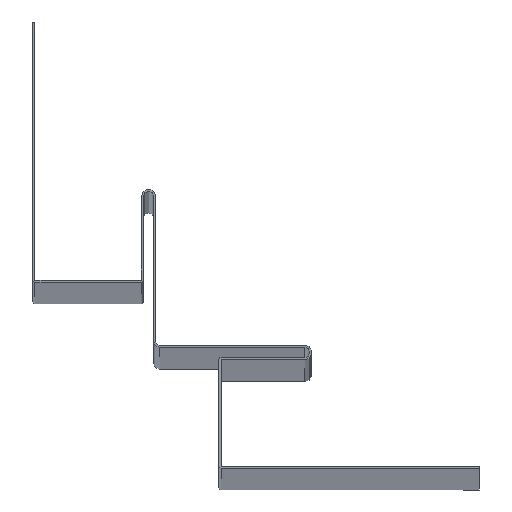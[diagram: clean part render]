
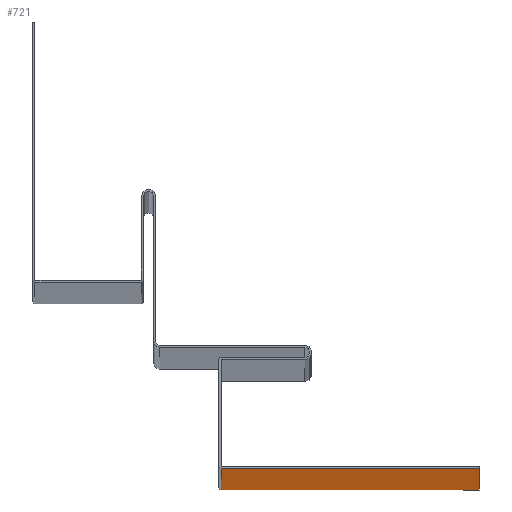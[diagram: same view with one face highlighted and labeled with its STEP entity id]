
A CAD part, top view. The second image highlights one B-rep face of the part: STEP entity #721.
In plain terms, the highlighted planar face has unit normal (0, -1, 0).
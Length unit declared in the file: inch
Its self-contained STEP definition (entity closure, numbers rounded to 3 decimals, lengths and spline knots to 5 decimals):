
#26 = ORIENTED_EDGE ( 'NONE', *, *, #580, .T. ) ;
#60 = ORIENTED_EDGE ( 'NONE', *, *, #151, .F. ) ;
#95 = VECTOR ( 'NONE', #689, 39.37008 ) ;
#99 = CARTESIAN_POINT ( 'NONE',  ( 3.11, -1.1625, 120. ) ) ;
#116 = VECTOR ( 'NONE', #370, 39.37008 ) ;
#151 = EDGE_CURVE ( 'NONE', #862, #930, #1087, .T. ) ;
#173 = EDGE_LOOP ( 'NONE', ( #984, #60, #771, #26 ) ) ;
#199 = LINE ( 'NONE', #850, #422 ) ;
#264 = VERTEX_POINT ( 'NONE', #1093 ) ;
#284 = LINE ( 'NONE', #819, #95 ) ;
#312 = FACE_OUTER_BOUND ( 'NONE', #173, .T. ) ;
#370 = DIRECTION ( 'NONE',  ( 0., 0., -1. ) ) ;
#400 = CARTESIAN_POINT ( 'NONE',  ( 0.63, -1.1625, 120. ) ) ;
#422 = VECTOR ( 'NONE', #706, 39.37008 ) ;
#469 = PLANE ( 'NONE',  #924 ) ;
#580 = EDGE_CURVE ( 'NONE', #968, #264, #199, .T. ) ;
#689 = DIRECTION ( 'NONE',  ( 1., 0., 0. ) ) ;
#693 = CARTESIAN_POINT ( 'NONE',  ( 3.11, -1.1625, 0. ) ) ;
#706 = DIRECTION ( 'NONE',  ( 0., 0., -1. ) ) ;
#721 = ADVANCED_FACE ( 'NONE', ( #312 ), #469, .F. ) ;
#723 = DIRECTION ( 'NONE',  ( 1., 0., 0. ) ) ;
#753 = DIRECTION ( 'NONE',  ( 0., 0., 1. ) ) ;
#761 = CARTESIAN_POINT ( 'NONE',  ( 3.11, -1.1625, 120. ) ) ;
#764 = CARTESIAN_POINT ( 'NONE',  ( 0.63, -1.1625, 120. ) ) ;
#771 = ORIENTED_EDGE ( 'NONE', *, *, #1034, .F. ) ;
#776 = LINE ( 'NONE', #1068, #1062 ) ;
#819 = CARTESIAN_POINT ( 'NONE',  ( 0.63, -1.1625, 120. ) ) ;
#850 = CARTESIAN_POINT ( 'NONE',  ( 0.63, -1.1625, 120. ) ) ;
#862 = VERTEX_POINT ( 'NONE', #761 ) ;
#867 = DIRECTION ( 'NONE',  ( 0., 1., 0. ) ) ;
#924 = AXIS2_PLACEMENT_3D ( 'NONE', #764, #867, #753 ) ;
#930 = VERTEX_POINT ( 'NONE', #693 ) ;
#968 = VERTEX_POINT ( 'NONE', #400 ) ;
#984 = ORIENTED_EDGE ( 'NONE', *, *, #1023, .T. ) ;
#1023 = EDGE_CURVE ( 'NONE', #264, #930, #776, .T. ) ;
#1034 = EDGE_CURVE ( 'NONE', #968, #862, #284, .T. ) ;
#1062 = VECTOR ( 'NONE', #723, 39.37008 ) ;
#1068 = CARTESIAN_POINT ( 'NONE',  ( 0.63, -1.1625, 0. ) ) ;
#1087 = LINE ( 'NONE', #99, #116 ) ;
#1093 = CARTESIAN_POINT ( 'NONE',  ( 0.63, -1.1625, 0. ) ) ;
